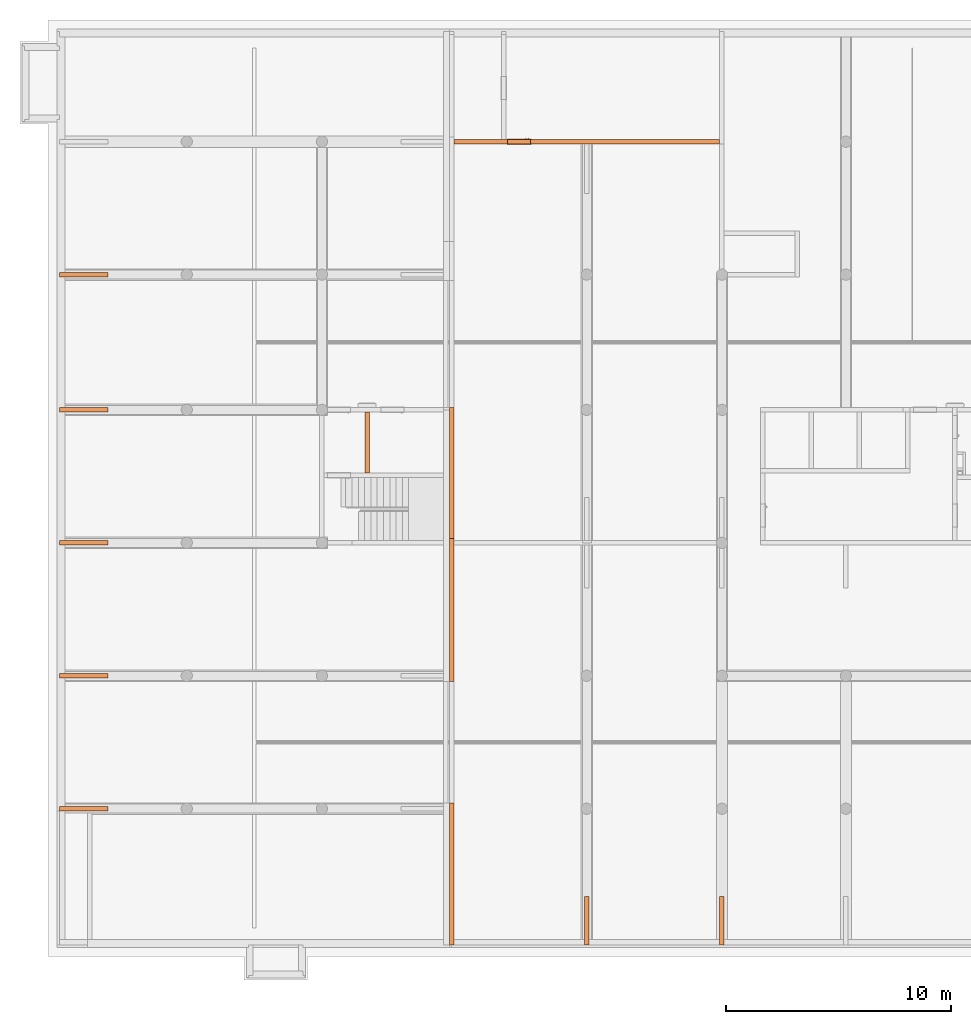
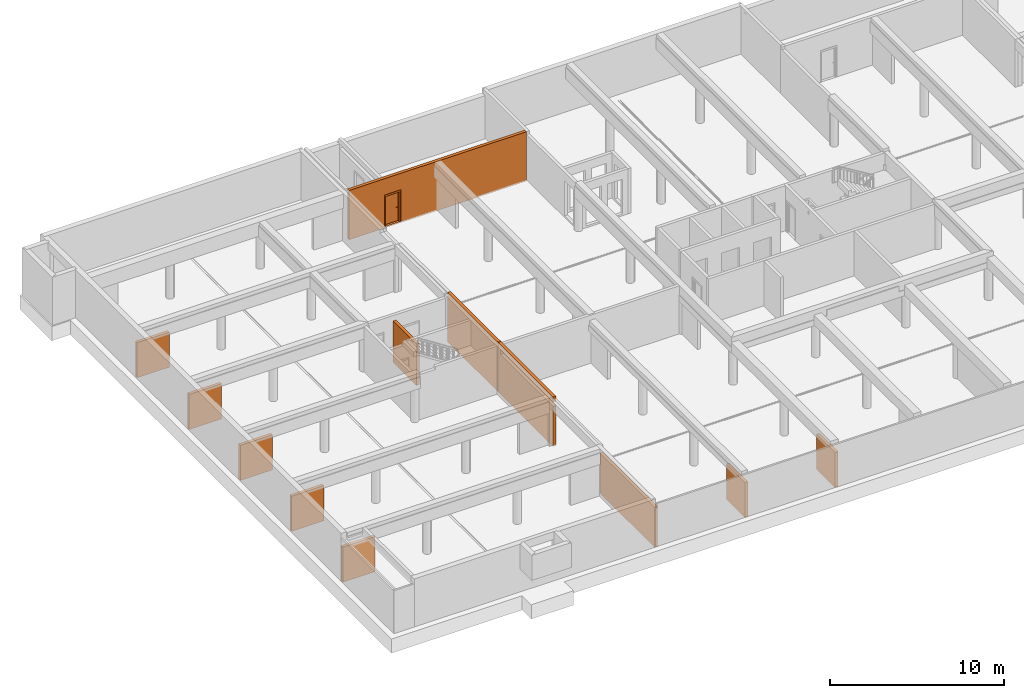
# One storey, part 20 of 25: 13 proxies, 1 opening.
"""IFC2X3 building model written with IfcOpenShell, lengths in millimetres."""

from ifc_helpers import new_model, entity, si_unit, converted_unit, derived_unit, money_unit, direction, frame, origin_with_axes, origin_2d_with_axis, place, context, subcontext, project, spatial, rectangle, extrude, open_shell, faceted_brep, surface_model, source, transform, mapped, material, type_object, element, fill, save


model = new_model("IFC2X3")

# Units and contexts
model_context = context("Model", 3, precision=0.01, world=origin_with_axes(), true_north=direction((0.34421633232, 0.938890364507)))
body_context = subcontext(model_context, "Body", "Model", "MODEL_VIEW")
ifc_project = project(units=[si_unit("LENGTHUNIT", "METRE", prefix="MILLI"), si_unit("AREAUNIT", "SQUARE_METRE"), si_unit("VOLUMEUNIT", "CUBIC_METRE"), converted_unit("PLANEANGLEUNIT", "DEGREE", entity("IfcPlaneAngleMeasure", 0.0174532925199), si_unit("PLANEANGLEUNIT", "RADIAN"), dimensions=[0, 0, 0, 0, 0, 0, 0]), si_unit("SOLIDANGLEUNIT", "STERADIAN"), money_unit("USD"), converted_unit("TIMEUNIT", "Year", entity("IfcTimeMeasure", 31556926.0), si_unit("TIMEUNIT", "SECOND"), dimensions=[0, 0, 1, 0, 0, 0, 0]), si_unit("MASSUNIT", "GRAM", prefix="KILO"), si_unit("THERMODYNAMICTEMPERATUREUNIT", "DEGREE_CELSIUS"), si_unit("LUMINOUSINTENSITYUNIT", "LUMEN"), si_unit("ENERGYUNIT", "JOULE", prefix="MEGA"), derived_unit("THERMALCONDUCTANCEUNIT", [(si_unit("POWERUNIT", "WATT"), 1), (si_unit("LENGTHUNIT", "METRE"), -1), (si_unit("THERMODYNAMICTEMPERATUREUNIT", "KELVIN"), -1)]), derived_unit("SPECIFICHEATCAPACITYUNIT", [(si_unit("ENERGYUNIT", "JOULE"), 1), (si_unit("MASSUNIT", "GRAM", prefix="KILO"), -1), (si_unit("THERMODYNAMICTEMPERATUREUNIT", "KELVIN"), -1)]), derived_unit("MASSDENSITYUNIT", [(si_unit("MASSUNIT", "GRAM", prefix="KILO"), 1), (si_unit("VOLUMEUNIT", "CUBIC_METRE"), -1)])], contexts=[model_context])

# Site, building, storey
site_placement = place(None, origin_with_axes())
site = spatial("IfcSite", under=ifc_project, at=site_placement, Name="USTRONIE MORSKIE", CompositionType="ELEMENT")
building_placement = place(site_placement, origin_with_axes())
building = spatial("IfcBuilding", under=site, at=building_placement, Name="Budynek", CompositionType="ELEMENT")
storey_placement = place(building_placement, frame((0.0, 0.0, -3600.0), z_axis=(0.0, 0.0, 1.0), x_axis=(1.0, 0.0, 0.0)))
storey = spatial("IfcBuildingStorey", under=building, at=storey_placement, Name="GARAZ", CompositionType="ELEMENT", Elevation=-3600.0)

# Proxies, opening
ifc_material = material(Name="Beton konstrukcyjny 01")
building_element_proxy_type_1 = type_object("IfcBuildingElementProxyType", Name="Beton konstrukcyjny 01 200", PredefinedType="NOTDEFINED")
proxy_1_placement = place(storey_placement, frame((379317.920919, 744701.199036, -100.0), z_axis=(0.0, 0.0, 1.0), x_axis=(-1.0, 0.0, 0.0)))
proxy_1 = element("IfcBuildingElementProxy", 1, at=proxy_1_placement, inside=storey, type_object=building_element_proxy_type_1, material=ifc_material, Name="SW-01", context=body_context, shape_type="Brep", body=[
    faceted_brep([(100.0, -100.0, 0.0), (100.0, 100.0, 0.0), (11900.0, 100.0, 0.0), (11900.0, -100.0, 0.0), (100.0, -100.0, 3470.0), (100.0, 100.0, 3470.0), (11900.0, 100.0, 3470.0), (11900.0, -100.0, 3470.0)], [[[0, 1, 2, 3]], [[0, 4, 5, 1]], [[1, 5, 6, 2]], [[6, 7, 3, 2]], [[4, 0, 3, 7]], [[5, 4, 7, 6]]]),
])
opening_placement = place(proxy_1_placement, frame((9000.0, 0.0, 100.0), z_axis=(0.0, 0.0, 1.0), x_axis=(1.0, 0.0, 0.0)))
opening = element("IfcOpeningElement", 2, at=opening_placement, cuts=proxy_1, Name="Dw02", context=body_context, shape_type="SweptSolid", body=[
    extrude(rectangle(XDim=1020.0, YDim=2120.0, at=origin_2d_with_axis()), frame((0.0, 200.0, 1060.0), z_axis=(0.0, 1.0, 0.0), x_axis=(1.0, 0.0, 0.0)), (0.0, 0.0, -1.0), 600.0),
    extrude(rectangle(XDim=1094.0, YDim=2227.0, at=origin_2d_with_axis()), frame((0.0, 100.0, 1113.5), z_axis=(0.0, 1.0, 0.0), x_axis=(1.0, 0.0, 0.0)), (0.0, 0.0, 1.0), 200.0),
    extrude(rectangle(XDim=1094.0, YDim=2227.0, at=origin_2d_with_axis()), frame((0.0, -100.0, 1113.5), z_axis=(0.0, -1.0, 0.0), x_axis=(1.0, 0.0, 0.0)), (0.0, 0.0, 1.0), 200.0),
])
building_element_proxy_type_2 = type_object("IfcBuildingElementProxyType", Name="Drzwi 23", PredefinedType="NOTDEFINED")
shared_shape = source(origin_with_axes(), body_context, "Body", "SurfaceModel", [
    faceted_brep([(510.0, -115.0, 0.0), (510.0, -200.0, 0.0), (485.0, -200.0, 0.0), (485.0, -115.0, 0.0), (510.0, -115.0, 2120.0), (510.0, -200.0, 2120.0), (485.0, -200.0, 2095.0), (485.0, -115.0, 2095.0)], [[[0, 1, 2, 3]], [[4, 5, 1, 0]], [[1, 5, 6, 2]], [[3, 2, 6, 7]], [[0, 3, 7, 4]], [[7, 6, 5, 4]]]),
    faceted_brep([(-510.0, -115.0, 2120.0), (-510.0, -200.0, 2120.0), (-485.0, -200.0, 2095.0), (-485.0, -115.0, 2095.0), (-510.0, -115.0, 0.0), (-510.0, -200.0, 0.0), (-485.0, -200.0, 0.0), (-485.0, -115.0, 0.0)], [[[0, 1, 2, 3]], [[4, 5, 1, 0]], [[1, 5, 6, 2]], [[3, 2, 6, 7]], [[0, 3, 7, 4]], [[7, 6, 5, 4]]]),
    faceted_brep([(485.0, -115.0, 2095.0), (485.0, -200.0, 2095.0), (-485.0, -200.0, 2095.0), (-485.0, -115.0, 2095.0), (510.0, -115.0, 2120.0), (510.0, -200.0, 2120.0), (-510.0, -200.0, 2120.0), (-510.0, -115.0, 2120.0)], [[[0, 1, 2, 3]], [[4, 5, 1, 0]], [[1, 5, 6, 2]], [[3, 2, 6, 7]], [[0, 3, 7, 4]], [[7, 6, 5, 4]]]),
    faceted_brep([(547.0, -219.0, 0.0), (497.0, -219.0, 0.0), (497.0, -200.0, 0.0), (547.0, -200.0, 0.0), (547.0, -219.0, 2227.0), (497.0, -219.0, 2107.0), (497.0, -200.0, 2107.0), (547.0, -200.0, 2227.0)], [[[0, 1, 2, 3]], [[0, 4, 5, 1]], [[1, 5, 6, 2]], [[3, 2, 6, 7]], [[4, 0, 3, 7]], [[5, 4, 7, 6]]]),
    faceted_brep([(-547.0, -219.0, 2227.0), (-497.0, -219.0, 2107.0), (-497.0, -200.0, 2107.0), (-547.0, -200.0, 2227.0), (-547.0, -219.0, 0.0), (-497.0, -219.0, 0.0), (-497.0, -200.0, 0.0), (-547.0, -200.0, 0.0)], [[[0, 1, 2, 3]], [[0, 4, 5, 1]], [[1, 5, 6, 2]], [[3, 2, 6, 7]], [[4, 0, 3, 7]], [[5, 4, 7, 6]]]),
    faceted_brep([(547.0, -219.0, 2227.0), (497.0, -219.0, 2107.0), (497.0, -200.0, 2107.0), (547.0, -200.0, 2227.0), (-547.0, -219.0, 2227.0), (-497.0, -219.0, 2107.0), (-497.0, -200.0, 2107.0), (-547.0, -200.0, 2227.0)], [[[0, 1, 2, 3]], [[0, 4, 5, 1]], [[1, 5, 6, 2]], [[3, 2, 6, 7]], [[4, 0, 3, 7]], [[5, 4, 7, 6]]]),
    faceted_brep([(547.0, 19.0, 0.0), (547.0, 0.0, 0.0), (497.0, 0.0, 0.0), (497.0, 19.0, 0.0), (547.0, 19.0, 2227.0), (547.0, 0.0, 2227.0), (497.0, 0.0, 2107.0), (497.0, 19.0, 2107.0)], [[[0, 1, 2, 3]], [[4, 5, 1, 0]], [[1, 5, 6, 2]], [[3, 2, 6, 7]], [[0, 3, 7, 4]], [[7, 6, 5, 4]]]),
    faceted_brep([(-547.0, 19.0, 2227.0), (-547.0, 0.0, 2227.0), (-497.0, 0.0, 2107.0), (-497.0, 19.0, 2107.0), (-547.0, 19.0, 0.0), (-547.0, 0.0, 0.0), (-497.0, 0.0, 0.0), (-497.0, 19.0, 0.0)], [[[0, 1, 2, 3]], [[4, 5, 1, 0]], [[1, 5, 6, 2]], [[3, 2, 6, 7]], [[0, 3, 7, 4]], [[7, 6, 5, 4]]]),
    faceted_brep([(547.0, 19.0, 2227.0), (547.0, 0.0, 2227.0), (497.0, 0.0, 2107.0), (497.0, 19.0, 2107.0), (-547.0, 19.0, 2227.0), (-547.0, 0.0, 2227.0), (-497.0, 0.0, 2107.0), (-497.0, 19.0, 2107.0)], [[[0, 1, 2, 3]], [[4, 5, 1, 0]], [[1, 5, 6, 2]], [[3, 2, 6, 7]], [[0, 3, 7, 4]], [[7, 6, 5, 4]]]),
    faceted_brep([(450.0, -40.0, 0.0), (450.0, -115.0, 0.0), (450.0, -115.0, 2050.0), (450.0, -40.0, 2050.0), (462.0, -40.0, 0.0), (462.0, 0.0, 0.0), (510.0, 0.0, 0.0), (510.0, -115.0, 0.0), (510.0, -115.0, 2050.0), (462.0, -40.0, 2050.0), (510.0, 0.0, 2050.0), (462.0, 0.0, 2050.0)], [[[0, 1, 2, 3]], [[4, 5, 6, 7, 1, 0]], [[1, 7, 8, 2]], [[9, 3, 2, 8, 10, 11]], [[9, 4, 0, 3]], [[11, 5, 4, 9]], [[11, 10, 6, 5]], [[6, 10, 8, 7]]]),
    faceted_brep([(-462.0, -40.0, 2050.0), (-462.0, 0.0, 2050.0), (-510.0, 0.0, 2050.0), (-510.0, -115.0, 2050.0), (-450.0, -115.0, 2050.0), (-450.0, -40.0, 2050.0), (-462.0, -40.0, 0.0), (-462.0, 0.0, 0.0), (-510.0, 0.0, 0.0), (-510.0, -115.0, 0.0), (-450.0, -115.0, 0.0), (-450.0, -40.0, 0.0)], [[[0, 1, 2, 3, 4, 5]], [[0, 6, 7, 1]], [[7, 8, 2, 1]], [[2, 8, 9, 3]], [[3, 9, 10, 4]], [[5, 4, 10, 11]], [[5, 11, 6, 0]], [[6, 11, 10, 9, 8, 7]]]),
    faceted_brep([(462.0, 0.0, 2062.0), (-462.0, 0.0, 2062.0), (-462.0, 0.0, 2050.0), (-510.0, 0.0, 2050.0), (-510.0, 0.0, 2120.0), (510.0, 0.0, 2120.0), (510.0, 0.0, 2050.0), (462.0, 0.0, 2050.0), (462.0, -40.0, 2062.0), (-462.0, -40.0, 2062.0), (-462.0, -40.0, 2050.0), (-450.0, -40.0, 2050.0), (-450.0, -115.0, 2050.0), (-510.0, -115.0, 2050.0), (-510.0, -115.0, 2120.0), (510.0, -115.0, 2120.0), (510.0, -115.0, 2050.0), (462.0, -40.0, 2050.0), (450.0, -115.0, 2050.0), (450.0, -40.0, 2050.0)], [[[0, 1, 2, 3, 4, 5, 6, 7]], [[0, 8, 9, 1]], [[1, 9, 10, 2]], [[10, 11, 12, 13, 3, 2]], [[4, 3, 13, 14]], [[5, 4, 14, 15]], [[6, 5, 15, 16]], [[17, 7, 6, 16, 18, 19]], [[7, 17, 8, 0]], [[10, 9, 8, 17, 19, 11]], [[19, 18, 12, 11]], [[12, 18, 16, 15, 14, 13]]]),
    faceted_brep([(440.5, -40.0, 1060.0), (383.5, -40.0, 1060.0), (383.5, -43.0, 1060.0), (440.5, -43.0, 1060.0), (440.5, -40.0, 870.0), (383.5, -40.0, 870.0), (383.5, -43.0, 870.0), (440.5, -43.0, 870.0)], [[[0, 1, 2, 3]], [[0, 4, 5, 1]], [[1, 5, 6, 2]], [[3, 2, 6, 7]], [[4, 0, 3, 7]], [[5, 4, 7, 6]]]),
    faceted_brep([(412.0, -104.0, 990.0), (417.0, -104.0, 991.339745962), (417.0, -111.0, 991.339745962), (412.0, -111.0, 990.0), (387.0, -104.0, 990.0), (387.0, -104.0, 1010.0), (412.0, -104.0, 1010.0), (417.0, -104.0, 1008.66025404), (420.660254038, -104.0, 1005.0), (422.0, -104.0, 1000.0), (420.660254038, -104.0, 995.0), (420.660254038, -111.0, 995.0), (422.0, -111.0, 1000.0), (420.660254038, -111.0, 1005.0), (417.0, -111.0, 1008.66025404), (412.0, -111.0, 1010.0), (387.0, -111.0, 1010.0), (387.0, -111.0, 990.0)], [[[0, 1, 2, 3]], [[0, 4, 5, 6, 7, 8, 9, 10, 1]], [[1, 10, 11, 2]], [[3, 2, 11, 12, 13, 14, 15, 16, 17]], [[4, 0, 3, 17]], [[5, 4, 17, 16]], [[6, 5, 16, 15]], [[7, 6, 15, 14]], [[8, 7, 14, 13]], [[9, 8, 13, 12]], [[10, 9, 12, 11]]]),
    surface_model("IfcShellBasedSurfaceModel", [(387.0, -104.0, 1010.0), (373.901717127, -104.0, 1009.60730092), (373.596090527, -111.0, 1009.60730092), (387.0, -104.0, 990.0), (373.901717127, -104.0, 990.392699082), (346.890283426, -108.663544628, 1008.82190275), (387.0, -111.0, 1010.0), (387.0, -111.0, 990.0), (347.804837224, -101.716818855, 991.178097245), (347.804837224, -101.716818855, 1008.82190275), (346.890283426, -108.663544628, 991.178097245), (373.596090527, -111.0, 990.392699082), (322.006256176, -97.1678329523, 991.963495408), (322.006256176, -97.1678329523, 1008.03650459), (320.489735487, -104.008415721, 1008.03650459), (320.489735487, -104.008415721, 991.963495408), (296.702316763, -90.3876628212, 992.748893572), (296.702316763, -90.3876628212, 1007.25110643), (294.59537082, -97.0700416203, 1007.25110643), (294.59537082, -97.0700416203, 992.748893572), (288.829442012, -87.5221707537, 993.0), (288.829442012, -87.5221707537, 1007.0), (286.538795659, -94.1376880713, 1007.0), (286.538795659, -94.1376880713, 993.0)], [open_shell([[[0, 1, 2]], [[0, 3, 4, 1]], [[1, 5, 2]], [[0, 2, 6]], [[4, 3, 7]], [[1, 4, 8, 9]], [[1, 9, 5]], [[2, 5, 10, 11]], [[6, 2, 11, 7]], [[4, 7, 11]], [[8, 4, 11]], [[9, 8, 12, 13]], [[9, 14, 5]], [[5, 14, 15, 10]], [[8, 11, 10]], [[12, 8, 10]], [[13, 12, 16, 17]], [[9, 13, 14]], [[14, 18, 19, 15]], [[12, 10, 15]], [[16, 12, 15]], [[17, 16, 20, 21]], [[13, 17, 18]], [[13, 18, 14]], [[18, 22, 23, 19]], [[16, 15, 19]], [[20, 16, 19]], [[21, 20, 23, 22]], [[17, 21, 22]], [[17, 22, 18]], [[20, 19, 23]]])]),
    faceted_brep([(401.607695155, -53.0, 994.0), (400.0, -53.0, 1000.0), (399.0, -43.0, 1000.0), (400.741669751, -43.0, 993.5), (406.0, -53.0, 989.607695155), (412.0, -53.0, 988.0), (418.0, -53.0, 989.607695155), (422.392304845, -53.0, 994.0), (424.0, -53.0, 1000.0), (422.392304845, -53.0, 1006.0), (418.0, -53.0, 1010.39230485), (412.0, -53.0, 1012.0), (406.0, -53.0, 1010.39230485), (401.607695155, -53.0, 1006.0), (400.741669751, -43.0, 1006.5), (405.5, -43.0, 1011.25833025), (412.0, -43.0, 1013.0), (418.5, -43.0, 1011.25833025), (423.258330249, -43.0, 1006.5), (425.0, -43.0, 1000.0), (423.258330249, -43.0, 993.5), (418.5, -43.0, 988.741669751), (412.0, -43.0, 987.0), (405.5, -43.0, 988.741669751)], [[[0, 1, 2, 3]], [[1, 0, 4, 5, 6, 7, 8, 9, 10, 11, 12, 13]], [[1, 13, 14, 2]], [[2, 14, 15, 16, 17, 18, 19, 20, 21, 22, 23, 3]], [[4, 0, 3, 23]], [[5, 4, 23, 22]], [[6, 5, 22, 21]], [[7, 6, 21, 20]], [[8, 7, 20, 19]], [[9, 8, 19, 18]], [[10, 9, 18, 17]], [[11, 10, 17, 16]], [[12, 11, 16, 15]], [[13, 12, 15, 14]]]),
    faceted_brep([(394.679491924, -47.0, 895.0), (392.0, -47.0, 905.0), (390.0, -43.0, 905.0), (392.947441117, -43.0, 894.0), (402.0, -47.0, 887.679491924), (412.0, -47.0, 885.0), (422.0, -47.0, 887.679491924), (429.320508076, -47.0, 895.0), (432.0, -47.0, 905.0), (429.320508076, -47.0, 915.0), (422.0, -47.0, 922.320508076), (412.0, -47.0, 925.0), (402.0, -47.0, 922.320508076), (394.679491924, -47.0, 915.0), (392.947441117, -43.0, 916.0), (401.0, -43.0, 924.052558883), (412.0, -43.0, 927.0), (423.0, -43.0, 924.052558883), (431.052558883, -43.0, 916.0), (434.0, -43.0, 905.0), (431.052558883, -43.0, 894.0), (423.0, -43.0, 885.947441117), (412.0, -43.0, 883.0), (401.0, -43.0, 885.947441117)], [[[0, 1, 2, 3]], [[1, 0, 4, 5, 6, 7, 8, 9, 10, 11, 12, 13]], [[1, 13, 14, 2]], [[2, 14, 15, 16, 17, 18, 19, 20, 21, 22, 23, 3]], [[4, 0, 3, 23]], [[5, 4, 23, 22]], [[6, 5, 22, 21]], [[7, 6, 21, 20]], [[8, 7, 20, 19]], [[9, 8, 19, 18]], [[10, 9, 18, 17]], [[11, 10, 17, 16]], [[12, 11, 16, 15]], [[13, 12, 15, 14]]]),
    faceted_brep([(407.050252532, -49.0, 909.050252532), (405.0, -49.0, 914.0), (404.0, -47.0, 914.0), (406.343145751, -47.0, 908.343145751), (412.0, -49.0, 907.0), (416.949747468, -49.0, 909.050252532), (419.0, -49.0, 914.0), (416.949747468, -49.0, 918.949747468), (412.0, -49.0, 921.0), (407.050252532, -49.0, 918.949747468), (406.343145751, -47.0, 919.656854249), (412.0, -47.0, 922.0), (417.656854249, -47.0, 919.656854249), (420.0, -47.0, 914.0), (417.656854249, -47.0, 908.343145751), (412.0, -47.0, 906.0)], [[[0, 1, 2, 3]], [[1, 0, 4, 5, 6, 7, 8, 9]], [[1, 9, 10, 2]], [[2, 10, 11, 12, 13, 14, 15, 3]], [[4, 0, 3, 15]], [[5, 4, 15, 14]], [[6, 5, 14, 13]], [[7, 6, 13, 12]], [[8, 7, 12, 11]], [[9, 8, 11, 10]]]),
    faceted_brep([(412.0, -53.0, 1010.0), (407.0, -53.0, 1008.66025404), (407.0, -104.0, 1008.66025404), (412.0, -104.0, 1010.0), (417.0, -53.0, 1008.66025404), (420.660254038, -53.0, 1005.0), (422.0, -53.0, 1000.0), (420.660254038, -53.0, 995.0), (417.0, -53.0, 991.339745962), (412.0, -53.0, 990.0), (407.0, -53.0, 991.339745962), (403.339745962, -53.0, 995.0), (402.0, -53.0, 1000.0), (403.339745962, -53.0, 1005.0), (403.339745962, -104.0, 1005.0), (402.0, -104.0, 1000.0), (403.339745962, -104.0, 995.0), (407.0, -104.0, 991.339745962), (412.0, -104.0, 990.0), (417.0, -104.0, 991.339745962), (420.660254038, -104.0, 995.0), (422.0, -104.0, 1000.0), (420.660254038, -104.0, 1005.0), (417.0, -104.0, 1008.66025404)], [[[0, 1, 2, 3]], [[0, 4, 5, 6, 7, 8, 9, 10, 11, 12, 13, 1]], [[1, 13, 14, 2]], [[3, 2, 14, 15, 16, 17, 18, 19, 20, 21, 22, 23]], [[4, 0, 3, 23]], [[5, 4, 23, 22]], [[6, 5, 22, 21]], [[7, 6, 21, 20]], [[8, 7, 20, 19]], [[9, 8, 19, 18]], [[10, 9, 18, 17]], [[11, 10, 17, 16]], [[12, 11, 16, 15]], [[13, 12, 15, 14]]]),
    faceted_brep([(440.5, 0.0, 1060.0), (440.5, 3.0, 1060.0), (383.5, 3.0, 1060.0), (383.5, 0.0, 1060.0), (440.5, 0.0, 870.0), (440.5, 3.0, 870.0), (383.5, 3.0, 870.0), (383.5, 0.0, 870.0)], [[[0, 1, 2, 3]], [[4, 5, 1, 0]], [[1, 5, 6, 2]], [[3, 2, 6, 7]], [[0, 3, 7, 4]], [[7, 6, 5, 4]]]),
    faceted_brep([(412.0, 64.0, 990.0), (412.0, 71.0, 990.0), (417.0, 71.0, 991.339745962), (417.0, 64.0, 991.339745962), (387.0, 64.0, 990.0), (387.0, 71.0, 990.0), (387.0, 71.0, 1010.0), (412.0, 71.0, 1010.0), (417.0, 71.0, 1008.66025404), (420.660254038, 71.0, 1005.0), (422.0, 71.0, 1000.0), (420.660254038, 71.0, 995.0), (420.660254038, 64.0, 995.0), (422.0, 64.0, 1000.0), (420.660254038, 64.0, 1005.0), (417.0, 64.0, 1008.66025404), (412.0, 64.0, 1010.0), (387.0, 64.0, 1010.0)], [[[0, 1, 2, 3]], [[4, 5, 1, 0]], [[1, 5, 6, 7, 8, 9, 10, 11, 2]], [[3, 2, 11, 12]], [[0, 3, 12, 13, 14, 15, 16, 17, 4]], [[17, 6, 5, 4]], [[16, 7, 6, 17]], [[15, 8, 7, 16]], [[14, 9, 8, 15]], [[13, 10, 9, 14]], [[12, 11, 10, 13]]]),
    surface_model("IfcShellBasedSurfaceModel", [(387.0, 64.0, 1010.0), (373.596090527, 71.0, 1009.60730092), (373.901717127, 64.0, 1009.60730092), (387.0, 71.0, 1010.0), (346.890283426, 68.6635446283, 1008.82190275), (373.901717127, 64.0, 990.392699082), (387.0, 64.0, 990.0), (387.0, 71.0, 990.0), (373.596090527, 71.0, 990.392699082), (346.890283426, 68.6635446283, 991.178097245), (347.804837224, 61.716818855, 1008.82190275), (347.804837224, 61.716818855, 991.178097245), (320.489735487, 64.0084157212, 991.963495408), (320.489735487, 64.0084157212, 1008.03650459), (322.006256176, 57.1678329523, 1008.03650459), (322.006256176, 57.1678329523, 991.963495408), (294.59537082, 57.0700416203, 992.748893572), (294.59537082, 57.0700416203, 1007.25110643), (296.702316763, 50.3876628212, 1007.25110643), (296.702316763, 50.3876628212, 992.748893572), (286.538795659, 54.1376880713, 993.0), (286.538795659, 54.1376880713, 1007.0), (288.829442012, 47.5221707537, 1007.0), (288.829442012, 47.5221707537, 993.0)], [open_shell([[[0, 1, 2]], [[0, 3, 1]], [[2, 1, 4]], [[0, 2, 5, 6]], [[3, 7, 8, 1]], [[1, 8, 9, 4]], [[2, 4, 10]], [[2, 10, 11, 5]], [[5, 7, 6]], [[5, 8, 7]], [[11, 9, 8]], [[4, 9, 12, 13]], [[10, 4, 13]], [[10, 14, 15, 11]], [[11, 8, 5]], [[15, 9, 11]], [[15, 12, 9]], [[13, 12, 16, 17]], [[10, 13, 14]], [[14, 18, 19, 15]], [[19, 12, 15]], [[19, 16, 12]], [[17, 16, 20, 21]], [[14, 13, 17]], [[14, 17, 18]], [[18, 22, 23, 19]], [[23, 16, 19]], [[23, 20, 16]], [[22, 21, 20, 23]], [[18, 17, 21]], [[18, 21, 22]]])]),
    faceted_brep([(401.607695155, 13.0, 994.0), (400.741669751, 3.0, 993.5), (399.0, 3.0, 1000.0), (400.0, 13.0, 1000.0), (406.0, 13.0, 989.607695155), (405.5, 3.0, 988.741669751), (412.0, 3.0, 987.0), (418.5, 3.0, 988.741669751), (423.258330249, 3.0, 993.5), (425.0, 3.0, 1000.0), (423.258330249, 3.0, 1006.5), (418.5, 3.0, 1011.25833025), (412.0, 3.0, 1013.0), (405.5, 3.0, 1011.25833025), (400.741669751, 3.0, 1006.5), (401.607695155, 13.0, 1006.0), (406.0, 13.0, 1010.39230485), (412.0, 13.0, 1012.0), (418.0, 13.0, 1010.39230485), (422.392304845, 13.0, 1006.0), (424.0, 13.0, 1000.0), (422.392304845, 13.0, 994.0), (418.0, 13.0, 989.607695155), (412.0, 13.0, 988.0)], [[[0, 1, 2, 3]], [[4, 5, 1, 0]], [[2, 1, 5, 6, 7, 8, 9, 10, 11, 12, 13, 14]], [[3, 2, 14, 15]], [[3, 15, 16, 17, 18, 19, 20, 21, 22, 23, 4, 0]], [[23, 6, 5, 4]], [[22, 7, 6, 23]], [[21, 8, 7, 22]], [[20, 9, 8, 21]], [[19, 10, 9, 20]], [[18, 11, 10, 19]], [[17, 12, 11, 18]], [[16, 13, 12, 17]], [[15, 14, 13, 16]]]),
    faceted_brep([(394.679491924, 7.0, 895.0), (392.947441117, 3.0, 894.0), (390.0, 3.0, 905.0), (392.0, 7.0, 905.0), (402.0, 7.0, 887.679491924), (401.0, 3.0, 885.947441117), (412.0, 3.0, 883.0), (423.0, 3.0, 885.947441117), (431.052558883, 3.0, 894.0), (434.0, 3.0, 905.0), (431.052558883, 3.0, 916.0), (423.0, 3.0, 924.052558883), (412.0, 3.0, 927.0), (401.0, 3.0, 924.052558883), (392.947441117, 3.0, 916.0), (394.679491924, 7.0, 915.0), (402.0, 7.0, 922.320508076), (412.0, 7.0, 925.0), (422.0, 7.0, 922.320508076), (429.320508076, 7.0, 915.0), (432.0, 7.0, 905.0), (429.320508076, 7.0, 895.0), (422.0, 7.0, 887.679491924), (412.0, 7.0, 885.0)], [[[0, 1, 2, 3]], [[4, 5, 1, 0]], [[2, 1, 5, 6, 7, 8, 9, 10, 11, 12, 13, 14]], [[3, 2, 14, 15]], [[3, 15, 16, 17, 18, 19, 20, 21, 22, 23, 4, 0]], [[23, 6, 5, 4]], [[22, 7, 6, 23]], [[21, 8, 7, 22]], [[20, 9, 8, 21]], [[19, 10, 9, 20]], [[18, 11, 10, 19]], [[17, 12, 11, 18]], [[16, 13, 12, 17]], [[15, 14, 13, 16]]]),
    faceted_brep([(407.050252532, 9.0, 909.050252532), (406.343145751, 7.0, 908.343145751), (404.0, 7.0, 914.0), (405.0, 9.0, 914.0), (412.0, 9.0, 907.0), (412.0, 7.0, 906.0), (417.656854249, 7.0, 908.343145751), (420.0, 7.0, 914.0), (417.656854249, 7.0, 919.656854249), (412.0, 7.0, 922.0), (406.343145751, 7.0, 919.656854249), (407.050252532, 9.0, 918.949747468), (412.0, 9.0, 921.0), (416.949747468, 9.0, 918.949747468), (419.0, 9.0, 914.0), (416.949747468, 9.0, 909.050252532)], [[[0, 1, 2, 3]], [[4, 5, 1, 0]], [[2, 1, 5, 6, 7, 8, 9, 10]], [[3, 2, 10, 11]], [[3, 11, 12, 13, 14, 15, 4, 0]], [[15, 6, 5, 4]], [[14, 7, 6, 15]], [[13, 8, 7, 14]], [[12, 9, 8, 13]], [[11, 10, 9, 12]]]),
    faceted_brep([(412.0, 13.0, 1010.0), (412.0, 64.0, 1010.0), (407.0, 64.0, 1008.66025404), (407.0, 13.0, 1008.66025404), (417.0, 13.0, 1008.66025404), (417.0, 64.0, 1008.66025404), (420.660254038, 64.0, 1005.0), (422.0, 64.0, 1000.0), (420.660254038, 64.0, 995.0), (417.0, 64.0, 991.339745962), (412.0, 64.0, 990.0), (407.0, 64.0, 991.339745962), (403.339745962, 64.0, 995.0), (402.0, 64.0, 1000.0), (403.339745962, 64.0, 1005.0), (403.339745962, 13.0, 1005.0), (402.0, 13.0, 1000.0), (403.339745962, 13.0, 995.0), (407.0, 13.0, 991.339745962), (412.0, 13.0, 990.0), (417.0, 13.0, 991.339745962), (420.660254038, 13.0, 995.0), (422.0, 13.0, 1000.0), (420.660254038, 13.0, 1005.0)], [[[0, 1, 2, 3]], [[4, 5, 1, 0]], [[1, 5, 6, 7, 8, 9, 10, 11, 12, 13, 14, 2]], [[3, 2, 14, 15]], [[0, 3, 15, 16, 17, 18, 19, 20, 21, 22, 23, 4]], [[23, 6, 5, 4]], [[22, 7, 6, 23]], [[21, 8, 7, 22]], [[20, 9, 8, 21]], [[19, 10, 9, 20]], [[18, 11, 10, 19]], [[17, 12, 11, 18]], [[16, 13, 12, 17]], [[15, 14, 13, 16]]]),
    faceted_brep([(-462.0, 0.0, 0.0), (462.0, 0.0, 0.0), (462.0, -40.0, 0.0), (-462.0, -40.0, 0.0), (-462.0, 0.0, 2062.0), (462.0, 0.0, 2062.0), (462.0, -40.0, 2062.0), (-462.0, -40.0, 2062.0)], [[[0, 1, 2, 3]], [[0, 4, 5, 1]], [[1, 5, 6, 2]], [[3, 2, 6, 7]], [[4, 0, 3, 7]], [[5, 4, 7, 6]]]),
])
proxy_2_placement = place(opening_placement, frame((450.0, 0.0, 0.0), z_axis=(0.0, 0.0, 1.0), x_axis=(-1.0, 0.0, 0.0)))
proxy_2 = element("IfcBuildingElementProxy", 3, at=proxy_2_placement, inside=storey, type_object=building_element_proxy_type_2, Name="Dw02", context=body_context, shape_type="MappedRepresentation", body=[
    mapped(shared_shape, transform((450.0, 100.0, 0.0))),
])
fill(opening, proxy_2)

# Proxies
proxy_3_placement = place(storey_placement, frame((350067.920919, 715101.199036, -100.0), z_axis=(0.0, 0.0, 1.0), x_axis=(1.0, 0.0, 0.0)))
element("IfcBuildingElementProxy", 4, at=proxy_3_placement, inside=storey, type_object=building_element_proxy_type_1, material=ifc_material, Name="SW-01", context=body_context, shape_type="Brep", body=[
    faceted_brep([(-150.0, -100.0, 0.0), (-150.0, 100.0, 0.0), (2000.0, 100.0, 0.0), (2000.0, -100.0, 0.0), (-150.0, -100.0, 2470.0), (-150.0, 100.0, 2470.0), (2000.0, 100.0, 2470.0), (2000.0, -100.0, 2470.0)], [[[0, 1, 2, 3]], [[4, 5, 1, 0]], [[1, 5, 6, 2]], [[7, 3, 2, 6]], [[4, 0, 3, 7]], [[5, 4, 7, 6]]]),
])
proxy_4_placement = place(storey_placement, frame((373317.920919, 709201.218821, -100.0), z_axis=(0.0, 0.0, 1.0), x_axis=(0.0, 1.0, 0.0)))
element("IfcBuildingElementProxy", 5, at=proxy_4_placement, inside=storey, type_object=building_element_proxy_type_1, material=ifc_material, Name="SW-01", context=body_context, shape_type="Brep", body=[
    faceted_brep([(-150.0, -100.0, 0.0), (-150.0, 100.0, 0.0), (2000.0, 100.0, 0.0), (2000.0, -100.0, 0.0), (-150.0, -100.0, 2470.00030619), (-150.0, 100.0, 2470.00030619), (2000.0, 100.0, 2470.00030619), (2000.0, -100.0, 2470.00030619)], [[[0, 1, 2, 3]], [[4, 5, 1, 0]], [[1, 5, 6, 2]], [[7, 3, 2, 6]], [[4, 0, 3, 7]], [[5, 4, 7, 6]]]),
])
proxy_5_placement = place(storey_placement, frame((379317.920919, 709201.218821, -100.0), z_axis=(0.0, 0.0, 1.0), x_axis=(0.0, 1.0, 0.0)))
element("IfcBuildingElementProxy", 6, at=proxy_5_placement, inside=storey, type_object=building_element_proxy_type_1, material=ifc_material, Name="SW-01", context=body_context, shape_type="Brep", body=[
    faceted_brep([(-150.0, 100.0, 0.0), (2000.0, 100.0, 0.0), (2000.0, -100.0, 0.0), (-150.0, -100.0, 0.0), (-150.0, 100.0, 2470.00030619), (2000.0, 100.0, 2470.00030619), (2000.0, -100.0, 2470.00030619), (-150.0, -100.0, 2470.00030619)], [[[0, 1, 2, 3]], [[4, 5, 1, 0]], [[2, 1, 5, 6]], [[3, 2, 6, 7]], [[4, 0, 3, 7]], [[7, 6, 5, 4]]]),
])
proxy_6_placement = place(storey_placement, frame((350067.920919, 721001.199036, -100.0), z_axis=(0.0, 0.0, 1.0), x_axis=(1.0, 0.0, 0.0)))
element("IfcBuildingElementProxy", 7, at=proxy_6_placement, inside=storey, type_object=building_element_proxy_type_1, material=ifc_material, Name="SW-01", context=body_context, shape_type="Brep", body=[
    faceted_brep([(-150.0, -100.0, 0.0), (-150.0, 100.0, 0.0), (2000.0, 100.0, 0.0), (2000.0, -100.0, 0.0), (-150.0, -100.0, 2470.0), (-150.0, 100.0, 2470.0), (2000.0, 100.0, 2470.0), (2000.0, -100.0, 2470.0)], [[[0, 1, 2, 3]], [[4, 5, 1, 0]], [[1, 5, 6, 2]], [[7, 3, 2, 6]], [[4, 0, 3, 7]], [[5, 4, 7, 6]]]),
])
proxy_7_placement = place(storey_placement, frame((363567.920919, 729901.199036, -100.0), z_axis=(0.0, 0.0, 1.0), x_axis=(0.0, 1.0, 0.0)))
element("IfcBuildingElementProxy", 8, at=proxy_7_placement, inside=storey, type_object=building_element_proxy_type_1, material=ifc_material, Name="SW-01", context=body_context, shape_type="Brep", body=[
    faceted_brep([(2800.0, -100.0, 2900.0), (2800.0, 100.0, 2900.0), (100.0, 100.0, 2900.0), (100.0, -100.0, 2900.0), (2800.0, -100.0, 0.0), (2800.0, 100.0, 0.0), (100.0, 100.0, 0.0), (100.0, -100.0, 0.0)], [[[0, 1, 2, 3]], [[1, 0, 4, 5]], [[1, 5, 6, 2]], [[7, 3, 2, 6]], [[4, 0, 3, 7]], [[5, 4, 7, 6]]]),
])
proxy_8_placement = place(storey_placement, frame((350067.920919, 732801.199036, -100.0), z_axis=(0.0, 0.0, 1.0), x_axis=(1.0, 0.0, 0.0)))
element("IfcBuildingElementProxy", 9, at=proxy_8_placement, inside=storey, type_object=building_element_proxy_type_1, material=ifc_material, Name="SW-01", context=body_context, shape_type="Brep", body=[
    faceted_brep([(-150.0, -100.0, 0.0), (-150.0, 100.0, 0.0), (2000.0, 100.0, 0.0), (2000.0, -100.0, 0.0), (-150.0, -100.0, 2470.0), (-150.0, 100.0, 2470.0), (2000.0, 100.0, 2470.0), (2000.0, -100.0, 2470.0)], [[[0, 1, 2, 3]], [[4, 5, 1, 0]], [[1, 5, 6, 2]], [[7, 3, 2, 6]], [[4, 0, 3, 7]], [[5, 4, 7, 6]]]),
])
proxy_9_placement = place(storey_placement, frame((367317.920919, 726901.199036, -100.0), z_axis=(0.0, 0.0, 1.0), x_axis=(0.0, -1.0, 0.0)))
element("IfcBuildingElementProxy", 10, at=proxy_9_placement, inside=storey, type_object=building_element_proxy_type_1, material=ifc_material, Name="SW-01", context=body_context, shape_type="Brep", body=[
    faceted_brep([(6150.0, 100.0, 3120.0), (100.000094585, 100.0, 3120.0), (100.000094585, 100.0, 2820.0), (6150.0, 100.0, 2820.0), (6150.0, 100.0, 0.0), (-200.0, 100.0, 0.0), (-200.0, 100.0, 3470.00004142), (6150.0, 100.0, 3470.00004142), (6150.0, -100.0, 3120.0), (100.000094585, -100.0, 3120.0), (100.000094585, -100.0, 2820.0), (6150.0, -100.0, 2820.0), (6150.0, -100.0, 0.0), (-200.0, -100.0, 0.0), (-200.0, -100.0, 3470.00004142), (6150.0, -100.0, 3470.00004142)], [[[0, 1, 2, 3, 4, 5, 6, 7]], [[8, 9, 1, 0]], [[9, 10, 2, 1]], [[10, 11, 3, 2]], [[12, 4, 3, 11]], [[5, 4, 12, 13]], [[13, 14, 6, 5]], [[14, 15, 7, 6]], [[7, 15, 8, 0]], [[11, 10, 9, 8, 15, 14, 13, 12]]]),
])
proxy_10_placement = place(storey_placement, frame((350067.920919, 726901.199036, -100.0), z_axis=(0.0, 0.0, 1.0), x_axis=(1.0, 0.0, 0.0)))
element("IfcBuildingElementProxy", 11, at=proxy_10_placement, inside=storey, type_object=building_element_proxy_type_1, material=ifc_material, Name="SW-01", context=body_context, shape_type="Brep", body=[
    faceted_brep([(-150.0, -100.0, 0.0), (-150.0, 100.0, 0.0), (2000.0, 100.0, 0.0), (2000.0, -100.0, 0.0), (-150.0, -100.0, 2470.0), (-150.0, 100.0, 2470.0), (2000.0, 100.0, 2470.0), (2000.0, -100.0, 2470.0)], [[[0, 1, 2, 3]], [[4, 5, 1, 0]], [[1, 5, 6, 2]], [[7, 3, 2, 6]], [[4, 0, 3, 7]], [[5, 4, 7, 6]]]),
])
proxy_11_placement = place(storey_placement, frame((367317.920919, 715351.199036, -100.0), z_axis=(0.0, 0.0, 1.0), x_axis=(0.0, -1.0, 0.0)))
element("IfcBuildingElementProxy", 12, at=proxy_11_placement, inside=storey, type_object=building_element_proxy_type_1, material=ifc_material, Name="SW-01", context=body_context, shape_type="Brep", body=[
    faceted_brep([(6299.98021535, -100.0, 2820.0), (6299.98021535, 100.0, 2820.0), (0.0, 100.0, 2820.0), (0.0, -100.0, 2820.0), (6299.98021535, -100.0, 0.0), (6299.98021535, 100.0, 0.0), (0.0, 100.0, 0.0), (0.0, -100.0, 0.0)], [[[0, 1, 2, 3]], [[1, 0, 4, 5]], [[1, 5, 6, 2]], [[7, 3, 2, 6]], [[4, 0, 3, 7]], [[5, 4, 7, 6]]]),
])
proxy_12_placement = place(storey_placement, frame((367317.920919, 732901.199036, -100.0), z_axis=(0.0, 0.0, 1.0), x_axis=(0.0, -1.0, 0.0)))
element("IfcBuildingElementProxy", 13, at=proxy_12_placement, inside=storey, type_object=building_element_proxy_type_1, material=ifc_material, Name="SW-01", context=body_context, shape_type="Brep", body=[
    faceted_brep([(0.0, -100.0, 0.0), (0.0, -100.0, 3470.00004142), (0.0, 98.4989107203, 3470.0), (0.0, 98.4989107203, 3270.0), (0.0, 100.0, 3270.0), (0.0, 100.0, 0.0), (5800.0, -100.0, 3470.00004142), (5800.0, -100.0, 0.0), (5800.0, 100.0, 3470.00004142), (5308.66603234, 100.0, 3470.0), (5308.66603233, 100.0, 3270.0), (5800.0, 100.0, 0.0)], [[[0, 1, 2, 3, 4, 5]], [[6, 1, 0, 7]], [[6, 8, 9, 2, 1]], [[10, 3, 2, 9]], [[4, 3, 10]], [[5, 4, 10, 9, 8, 11]], [[7, 0, 5, 11]], [[8, 6, 7, 11]]]),
])
proxy_13_placement = place(storey_placement, frame((350067.920919, 738801.199036, -100.0), z_axis=(0.0, 0.0, 1.0), x_axis=(1.0, 0.0, 0.0)))
element("IfcBuildingElementProxy", 14, at=proxy_13_placement, inside=storey, type_object=building_element_proxy_type_1, material=ifc_material, Name="SW-01", context=body_context, shape_type="Brep", body=[
    faceted_brep([(-150.0, -100.0, 0.0), (-150.0, 100.0, 0.0), (2000.0, 100.0, 0.0), (2000.0, -100.0, 0.0), (-150.0, -100.0, 2470.0), (-150.0, 100.0, 2470.0), (2000.0, 100.0, 2470.0), (2000.0, -100.0, 2470.0)], [[[0, 1, 2, 3]], [[4, 5, 1, 0]], [[1, 5, 6, 2]], [[7, 3, 2, 6]], [[4, 0, 3, 7]], [[5, 4, 7, 6]]]),
])

save(model, "model.ifc")
